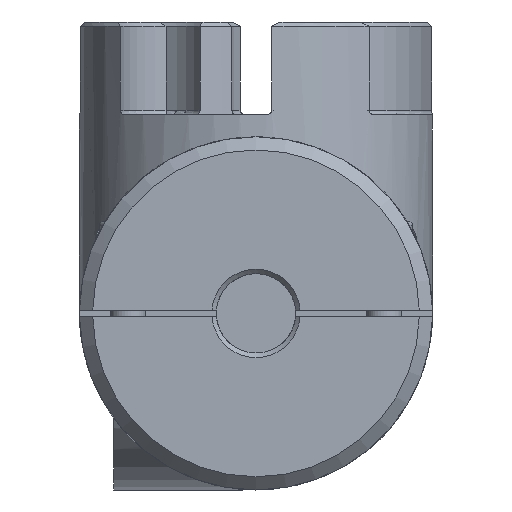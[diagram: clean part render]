
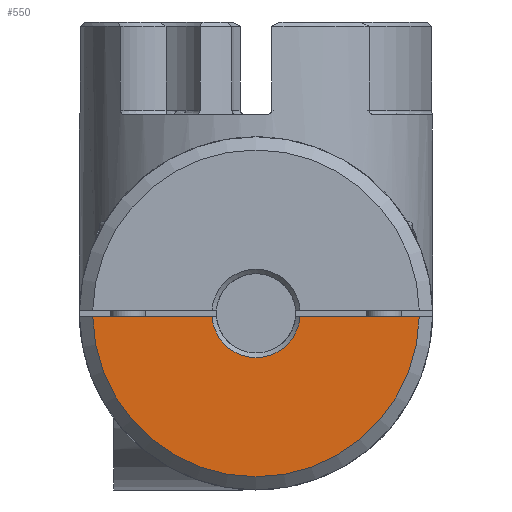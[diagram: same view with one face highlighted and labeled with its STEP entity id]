
A CAD part, front view. The second image highlights one B-rep face of the part: STEP entity #550.
In plain terms, the highlighted planar face has unit normal (0, -1, 0) as drawn and (1, 0, 0) by its records, which use the part's own axes.
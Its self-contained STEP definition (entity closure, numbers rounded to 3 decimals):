
#550 = ADVANCED_FACE( '', ( #1233 ), #1234, .F. );
#1233 = FACE_OUTER_BOUND( '', #1874, .T. );
#1234 = PLANE( '', #1875 );
#1874 = EDGE_LOOP( '', ( #3821, #3822, #3823, #3824 ) );
#1875 = AXIS2_PLACEMENT_3D( '', #3825, #3826, #3827 );
#3821 = ORIENTED_EDGE( '', *, *, #4639, .T. );
#3822 = ORIENTED_EDGE( '', *, *, #4640, .F. );
#3823 = ORIENTED_EDGE( '', *, *, #4641, .T. );
#3824 = ORIENTED_EDGE( '', *, *, #4638, .F. );
#3825 = CARTESIAN_POINT( '', ( 0., 0., 0. ) );
#3826 = DIRECTION( '', ( -1., 0., 0. ) );
#3827 = DIRECTION( '', ( 0., -1., 0. ) );
#4638 = EDGE_CURVE( '', #5599, #5593, #5601, .T. );
#4639 = EDGE_CURVE( '', #5599, #5602, #5603, .F. );
#4640 = EDGE_CURVE( '', #5604, #5602, #5605, .T. );
#4641 = EDGE_CURVE( '', #5604, #5593, #5606, .T. );
#5593 = VERTEX_POINT( '', #7779 );
#5599 = VERTEX_POINT( '', #7790 );
#5601 = LINE( '', #7795, #7796 );
#5602 = VERTEX_POINT( '', #7797 );
#5603 = CIRCLE( '', #7798, 37. );
#5604 = VERTEX_POINT( '', #7799 );
#5605 = LINE( '', #7800, #7801 );
#5606 = CIRCLE( '', #7802, 10. );
#7779 = CARTESIAN_POINT( '', ( 0., -9.972, -0.75 ) );
#7790 = CARTESIAN_POINT( '', ( 0., -36.992, -0.75 ) );
#7795 = CARTESIAN_POINT( '', ( 0., -40., -0.75 ) );
#7796 = VECTOR( '', #8847, 1000. );
#7797 = CARTESIAN_POINT( '', ( 0., 36.992, -0.75 ) );
#7798 = AXIS2_PLACEMENT_3D( '', #8848, #8849, #8850 );
#7799 = CARTESIAN_POINT( '', ( 0., 9.972, -0.75 ) );
#7800 = CARTESIAN_POINT( '', ( 0., -40., -0.75 ) );
#7801 = VECTOR( '', #8851, 1000. );
#7802 = AXIS2_PLACEMENT_3D( '', #8852, #8853, #8854 );
#8847 = DIRECTION( '', ( 0., 1., 0. ) );
#8848 = CARTESIAN_POINT( '', ( 0., 0., 0. ) );
#8849 = DIRECTION( '', ( -1., 0., 0. ) );
#8850 = DIRECTION( '', ( 0., -1., 0. ) );
#8851 = DIRECTION( '', ( 0., 1., 0. ) );
#8852 = CARTESIAN_POINT( '', ( 0., 0., 0. ) );
#8853 = DIRECTION( '', ( -1., 0., 0. ) );
#8854 = DIRECTION( '', ( 0., -1., 0. ) );
